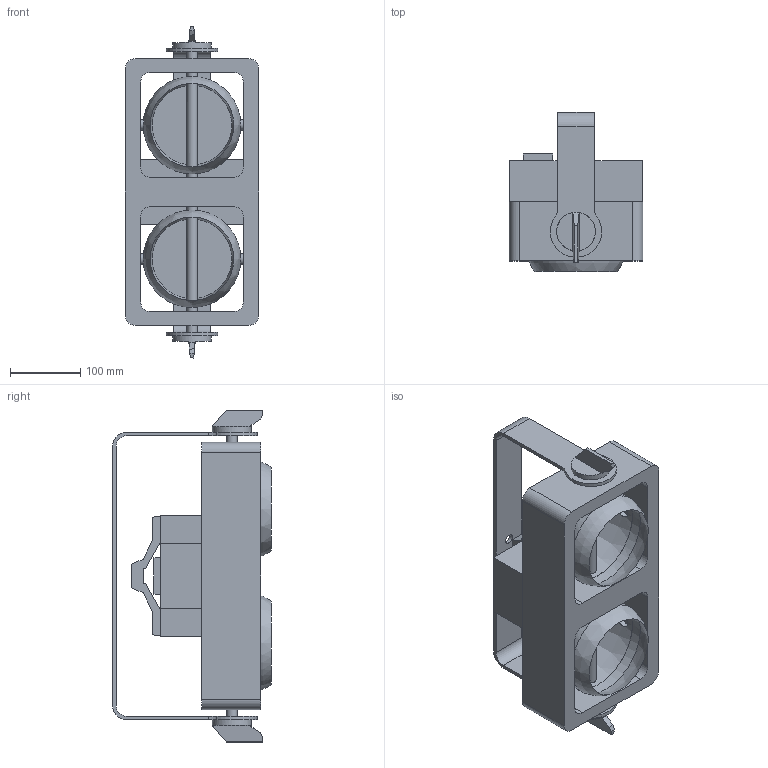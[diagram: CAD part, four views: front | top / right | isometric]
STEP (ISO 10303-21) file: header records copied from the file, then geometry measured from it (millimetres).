
FILE_DESCRIPTION(/* description */ (''),/* implementation_level */ '2;1');
FILE_NAME(/* name */ 'D:/dgooch/Documents/CADENG/PRO/Strike Array 2/0/3D/Strike Array 2_0.step',/* time_stamp */ '2020-01-20T11:08:21-05:00',/* author */ (''),/* organization */ (''),/* preprocessor_version */ 'ST-DEVELOPER v18',/* originating_system */ 'Autodesk Translation Framework v8.12.0.6',/* authorisation */ '');
FILE_SCHEMA (('AUTOMOTIVE_DESIGN { 1 0 10303 214 3 1 1 }'));
Length unit declared in the file: millimetre
Products named in the file (3): Strike Array 2; Bracket; Head
Assembly tree (2 placements, depth 2):
  Strike Array 2
    Bracket
    Head
Bounding box: 190 x 225.82 x 472.17 mm (x, y, z)
Volume: 6489425.6 mm3; surface area: 581132.3 mm2
Topology: 2 solids, 2 shells, 124 faces, 356 edges, 238 vertices
Faces by surface type: plane 78, cylinder 36, bspline 6, cone 4
Full cylindrical faces by diameter (mm): 13 x2, 15 x10, 55 x2
Entity records: 5119 total; most frequent: CARTESIAN_POINT 1723, ORIENTED_EDGE 704, DIRECTION 668, EDGE_CURVE 352, VERTEX_POINT 238, LINE 234, VECTOR 234, AXIS2_PLACEMENT_3D 217
